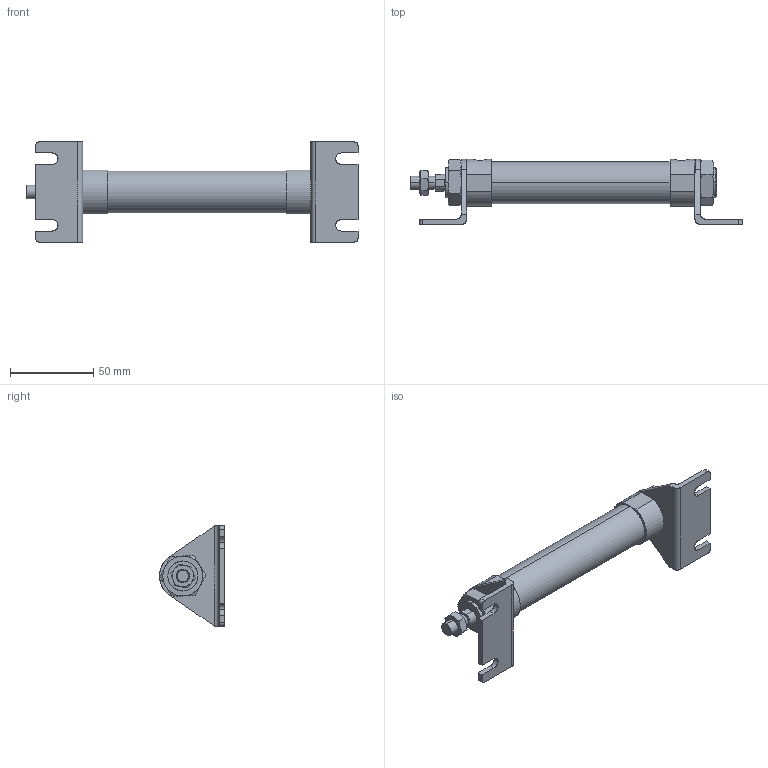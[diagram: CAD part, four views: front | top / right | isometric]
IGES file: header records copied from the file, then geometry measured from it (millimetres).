
Start section: SolidWorks IGES file using analytic representation for surfaces
Global section: file name: C:\Users\Toshiba\Desktop\J#2-20-75-L.IGS; native system: SolidWorks 2014; preprocessor: SolidWorks 2014; author: Toshiba; date: 160310.084955; units: millimetre
Bounding box: 199.2 x 39 x 60 mm (x, y, z)
Surface area: 31174 mm2 (no closed solid volume)
Topology: 0 solids, 0 shells, 168 faces, 2672 edges, 2672 vertices
Faces by surface type: bspline 110, revolution 58
